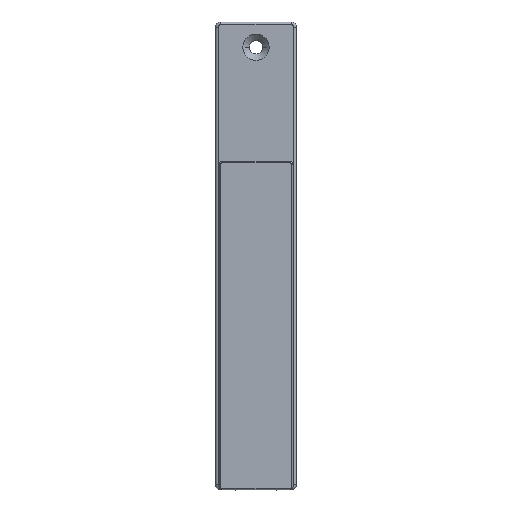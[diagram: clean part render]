
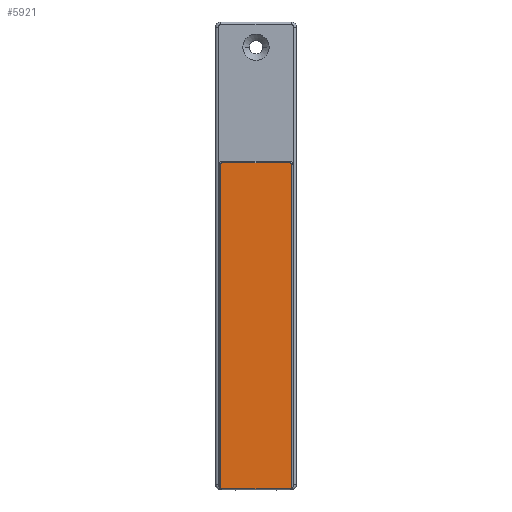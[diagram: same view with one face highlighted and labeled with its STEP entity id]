
A CAD part, top view. The second image highlights one B-rep face of the part: STEP entity #5921.
In plain terms, the highlighted planar face has unit normal (0, 0, 1) as drawn and (-1, 0, 0) by its records, which use the part's own axes.
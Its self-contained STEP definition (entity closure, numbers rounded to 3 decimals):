
#47 = ORIENTED_EDGE ( 'NONE', *, *, #349, .T. ) ;
#92 = EDGE_CURVE ( 'NONE', #4203, #1899, #6934, .T. ) ;
#216 = CIRCLE ( 'NONE', #2607, 0.5 ) ;
#349 = EDGE_CURVE ( 'NONE', #8210, #3234, #9603, .T. ) ;
#678 = ORIENTED_EDGE ( 'NONE', *, *, #92, .T. ) ;
#814 = DIRECTION ( 'NONE',  ( -1., 0., 0. ) ) ;
#1123 = CARTESIAN_POINT ( 'NONE',  ( -5., 21., -13.5 ) ) ;
#1125 = DIRECTION ( 'NONE',  ( 0., 0., -1. ) ) ;
#1168 = CIRCLE ( 'NONE', #6813, 0.5 ) ;
#1382 = LINE ( 'NONE', #8824, #9901 ) ;
#1588 = CARTESIAN_POINT ( 'NONE',  ( -5., -107.5, 14. ) ) ;
#1664 = CARTESIAN_POINT ( 'NONE',  ( -5., -107.5, 13.5 ) ) ;
#1771 = ORIENTED_EDGE ( 'NONE', *, *, #6088, .T. ) ;
#1825 = CARTESIAN_POINT ( 'NONE',  ( -5., 0., 0. ) ) ;
#1899 = VERTEX_POINT ( 'NONE', #5193 ) ;
#1985 = LINE ( 'NONE', #8199, #5909 ) ;
#2036 = CARTESIAN_POINT ( 'NONE',  ( -5., 20.5, 13.5 ) ) ;
#2211 = EDGE_CURVE ( 'NONE', #1899, #3725, #216, .T. ) ;
#2378 = VECTOR ( 'NONE', #3079, 1000. ) ;
#2607 = AXIS2_PLACEMENT_3D ( 'NONE', #2036, #814, #6061 ) ;
#2722 = PLANE ( 'NONE',  #5725 ) ;
#2832 = DIRECTION ( 'NONE',  ( -1., 0., 0. ) ) ;
#2848 = EDGE_CURVE ( 'NONE', #6173, #4203, #1168, .T. ) ;
#3059 = CARTESIAN_POINT ( 'NONE',  ( -5., -107.5, -13.5 ) ) ;
#3079 = DIRECTION ( 'NONE',  ( 0., 1., 0. ) ) ;
#3168 = DIRECTION ( 'NONE',  ( -1., 0., 0. ) ) ;
#3234 = VERTEX_POINT ( 'NONE', #4675 ) ;
#3725 = VERTEX_POINT ( 'NONE', #6588 ) ;
#3829 = DIRECTION ( 'NONE',  ( 0., -1., 0. ) ) ;
#3843 = CARTESIAN_POINT ( 'NONE',  ( -5., -107.5, -14. ) ) ;
#3977 = CARTESIAN_POINT ( 'NONE',  ( -5., -108., 13.5 ) ) ;
#4130 = DIRECTION ( 'NONE',  ( -1., 0., 0. ) ) ;
#4200 = EDGE_CURVE ( 'NONE', #3234, #4324, #9194, .T. ) ;
#4203 = VERTEX_POINT ( 'NONE', #1588 ) ;
#4324 = VERTEX_POINT ( 'NONE', #8508 ) ;
#4578 = EDGE_CURVE ( 'NONE', #9252, #6173, #1382, .T. ) ;
#4675 = CARTESIAN_POINT ( 'NONE',  ( -5., 20.5, -14. ) ) ;
#4738 = DIRECTION ( 'NONE',  ( 0., -1., 0. ) ) ;
#4821 = ORIENTED_EDGE ( 'NONE', *, *, #4578, .T. ) ;
#4936 = AXIS2_PLACEMENT_3D ( 'NONE', #7533, #2832, #5912 ) ;
#5193 = CARTESIAN_POINT ( 'NONE',  ( -5., 20.5, 14. ) ) ;
#5725 = AXIS2_PLACEMENT_3D ( 'NONE', #1825, #4130, #7258 ) ;
#5909 = VECTOR ( 'NONE', #1125, 1000. ) ;
#5912 = DIRECTION ( 'NONE',  ( 0., -1., 0. ) ) ;
#5921 = ADVANCED_FACE ( 'NONE', ( #7372 ), #2722, .T. ) ;
#5966 = ORIENTED_EDGE ( 'NONE', *, *, #2211, .T. ) ;
#6061 = DIRECTION ( 'NONE',  ( 0., -1., 0. ) ) ;
#6088 = EDGE_CURVE ( 'NONE', #4324, #9252, #6710, .T. ) ;
#6173 = VERTEX_POINT ( 'NONE', #3977 ) ;
#6218 = DIRECTION ( 'NONE',  ( 0., -1., 0. ) ) ;
#6456 = EDGE_LOOP ( 'NONE', ( #4821, #6604, #678, #5966, #7659, #47, #8722, #1771 ) ) ;
#6588 = CARTESIAN_POINT ( 'NONE',  ( -5., 21., 13.5 ) ) ;
#6604 = ORIENTED_EDGE ( 'NONE', *, *, #2848, .T. ) ;
#6710 = CIRCLE ( 'NONE', #9123, 0.5 ) ;
#6813 = AXIS2_PLACEMENT_3D ( 'NONE', #1664, #9331, #4738 ) ;
#6934 = LINE ( 'NONE', #8659, #2378 ) ;
#7258 = DIRECTION ( 'NONE',  ( 0., -1., 0. ) ) ;
#7372 = FACE_OUTER_BOUND ( 'NONE', #6456, .T. ) ;
#7512 = EDGE_CURVE ( 'NONE', #3725, #8210, #1985, .T. ) ;
#7533 = CARTESIAN_POINT ( 'NONE',  ( -5., 20.5, -13.5 ) ) ;
#7659 = ORIENTED_EDGE ( 'NONE', *, *, #7512, .T. ) ;
#8108 = DIRECTION ( 'NONE',  ( 0., 0., 1. ) ) ;
#8199 = CARTESIAN_POINT ( 'NONE',  ( -5., 21., -13.5 ) ) ;
#8210 = VERTEX_POINT ( 'NONE', #1123 ) ;
#8508 = CARTESIAN_POINT ( 'NONE',  ( -5., -107.5, -14. ) ) ;
#8659 = CARTESIAN_POINT ( 'NONE',  ( -5., 20.5, 14. ) ) ;
#8722 = ORIENTED_EDGE ( 'NONE', *, *, #4200, .T. ) ;
#8824 = CARTESIAN_POINT ( 'NONE',  ( -5., -108., 13.5 ) ) ;
#9123 = AXIS2_PLACEMENT_3D ( 'NONE', #3059, #3168, #3829 ) ;
#9179 = CARTESIAN_POINT ( 'NONE',  ( -5., -108., -13.5 ) ) ;
#9194 = LINE ( 'NONE', #3843, #9716 ) ;
#9252 = VERTEX_POINT ( 'NONE', #9179 ) ;
#9331 = DIRECTION ( 'NONE',  ( -1., 0., 0. ) ) ;
#9603 = CIRCLE ( 'NONE', #4936, 0.5 ) ;
#9716 = VECTOR ( 'NONE', #6218, 1000. ) ;
#9901 = VECTOR ( 'NONE', #8108, 1000. ) ;
